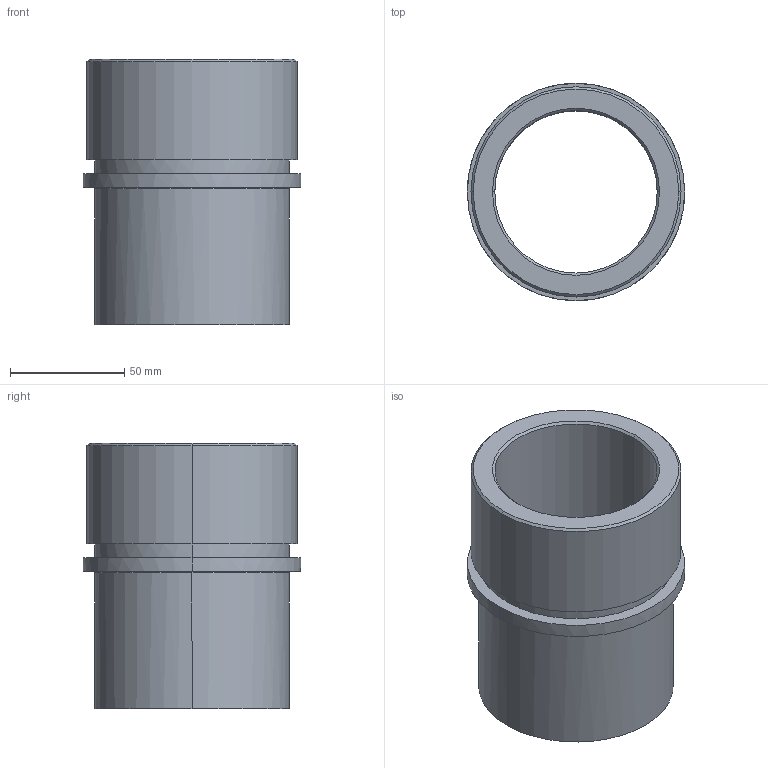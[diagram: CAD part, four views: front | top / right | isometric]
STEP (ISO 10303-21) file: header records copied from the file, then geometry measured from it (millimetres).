
FILE_DESCRIPTION(('CATIA V5 STEP Exchange'),'2;1');
FILE_NAME('C:\Users\Utente\Desktop\IO LAVORO\3D X SITO CF\X SITO\735\735-63.stp','2021-01-16T19:16:16+00:00',('none'),('none'),'CATIA Version 5 Release 20 GA (IN-10)','CATIA V5 STEP AP203','none');
FILE_SCHEMA(('CONFIG_CONTROL_DESIGN'));
Length unit declared in the file: millimetre
Products named in the file (1): 735-63
Assembly tree (1 placements, depth 2):
  735-63
    #58
Bounding box: 95 x 95 x 116 mm (x, y, z)
Volume: 248410.2 mm3; surface area: 66127.5 mm2
Topology: 1 solids, 1 shells, 25 faces, 50 edges, 30 vertices
Faces by surface type: cylinder 10, cone 6, plane 5, torus 4
Entity records: 851 total; most frequent: CARTESIAN_POINT 282, ORIENTED_EDGE 100, DIRECTION 96, AXIS2_PLACEMENT_3D 53, EDGE_CURVE 50, EDGE_LOOP 30, VERTEX_POINT 30, CIRCLE 26
